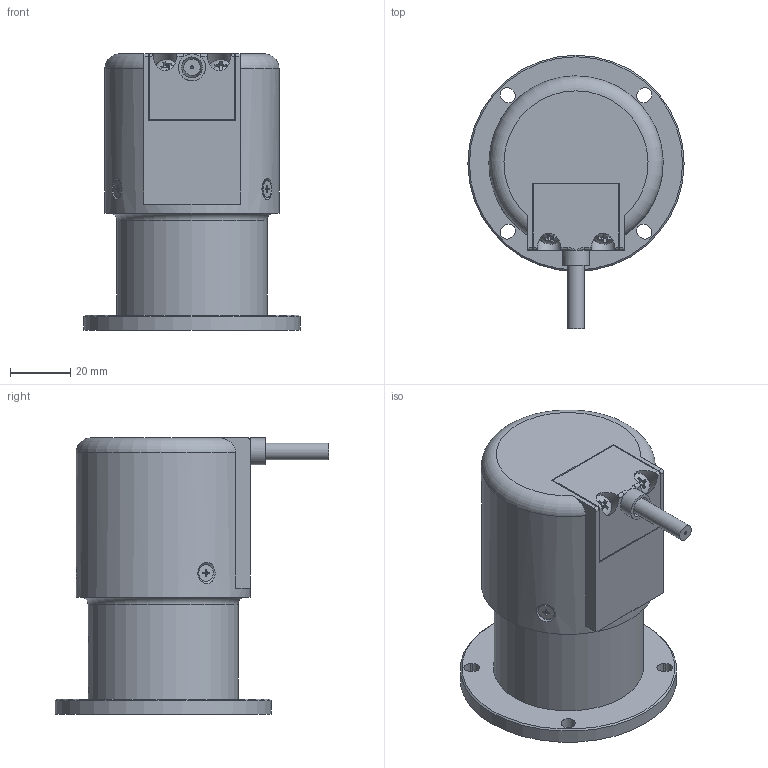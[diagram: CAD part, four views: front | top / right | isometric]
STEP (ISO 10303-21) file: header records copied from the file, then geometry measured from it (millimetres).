
FILE_DESCRIPTION(/* description */ ('Unknown'),/* implementation_level */ '2;1');
FILE_NAME(/* name */ 'EL_ER_72A_10mm_IP66_PR',/* time_stamp */ '2019-06-11T10:51:58+02:00',/* author */ ('Unknown'),/* organization */ ('Unknown'),/* preprocessor_version */ 'ST-DEVELOPER v16.7',/* originating_system */ 'DEX',/* authorisation */ $);
FILE_SCHEMA (('AUTOMOTIVE_DESIGN {1 0 10303 214 3 1 1}'));
Length unit declared in the file: millimetre
Products named in the file (1): EL_ER_72A_10mm_IP66_PR
Bounding box: 72 x 91.2 x 92 mm (x, y, z)
Volume: 131339.3 mm3; surface area: 66245.2 mm2
Topology: 23 solids, 35 shells, 507 faces, 1297 edges, 845 vertices
Faces by surface type: plane 232, cylinder 145, cone 48, torus 35, bspline 27, sphere 20
Full cylindrical faces by diameter (mm): 1 x1, 2.013 x2, 2.459 x6, 3 x2, 3.242 x8, 3.5 x3, 4.5 x2, 4.917 x2, 5.5 x1, 5.6 x3, 7 x3, 8 x2, 9 x1, 10 x5, 10.5 x1, 11 x1, 13.8 x1, 14.5 x4, 15 x2, 21.2 x4, 21.998 x4, 24 x1, 25 x5, 26.15 x1, 31 x1, 40 x1, 49.6 x1, 50 x2, 53.8 x2, 54 x2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
Entity records: 29746 total; most frequent: CARTESIAN_POINT 16067, DIRECTION 2091, ORIENTED_EDGE 1980, EDGE_CURVE 990, AXIS2_PLACEMENT_3D 789, VERTEX_POINT 755, FACE_BOUND 753, EDGE_LOOP 723
